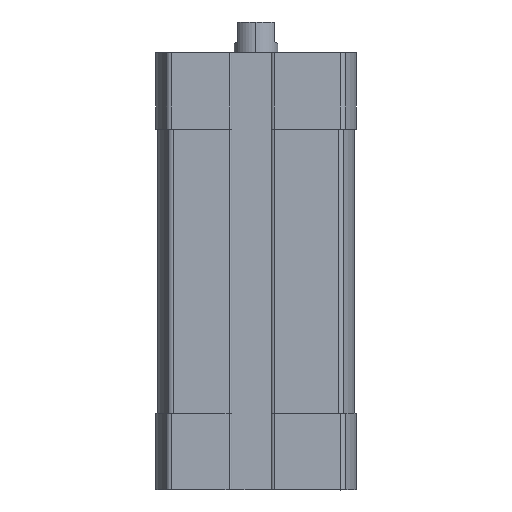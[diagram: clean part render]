
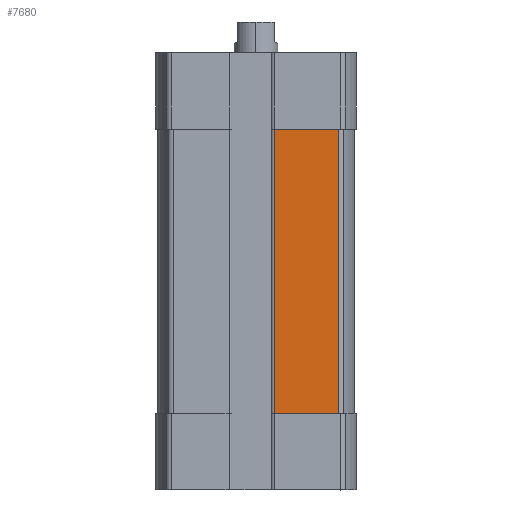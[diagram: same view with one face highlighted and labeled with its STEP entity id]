
A CAD part, left-side view. The second image highlights one B-rep face of the part: STEP entity #7680.
In plain terms, the highlighted planar face has unit normal (-1, 0, 0).
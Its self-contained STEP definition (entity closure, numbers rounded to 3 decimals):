
#5 = LINE ( 'NONE', #11311, #4496 ) ;
#146 = EDGE_CURVE ( 'NONE', #6102, #1639, #3737, .T. ) ;
#414 = CARTESIAN_POINT ( 'NONE',  ( -13.5, -2.5, -49.5 ) ) ;
#626 = DIRECTION ( 'NONE',  ( 0., 0., -1. ) ) ;
#1025 = CARTESIAN_POINT ( 'NONE',  ( -13.5, -2.5, -49.5 ) ) ;
#1095 = VECTOR ( 'NONE', #2494, 1000. ) ;
#1329 = DIRECTION ( 'NONE',  ( 0., -1., 0. ) ) ;
#1331 = ORIENTED_EDGE ( 'NONE', *, *, #2516, .T. ) ;
#1639 = VERTEX_POINT ( 'NONE', #9658 ) ;
#2174 = FACE_OUTER_BOUND ( 'NONE', #7755, .T. ) ;
#2494 = DIRECTION ( 'NONE',  ( 0., 1., 0. ) ) ;
#2516 = EDGE_CURVE ( 'NONE', #8425, #6102, #5, .T. ) ;
#3026 = DIRECTION ( 'NONE',  ( 0., 0., 1. ) ) ;
#3288 = CARTESIAN_POINT ( 'NONE',  ( -13.5, -2.5, -49.5 ) ) ;
#3737 = LINE ( 'NONE', #414, #8191 ) ;
#4170 = ORIENTED_EDGE ( 'NONE', *, *, #6714, .T. ) ;
#4208 = LINE ( 'NONE', #8366, #8969 ) ;
#4496 = VECTOR ( 'NONE', #626, 1000. ) ;
#4638 = AXIS2_PLACEMENT_3D ( 'NONE', #3288, #11342, #6023 ) ;
#4726 = EDGE_CURVE ( 'NONE', #9991, #8425, #8467, .T. ) ;
#6023 = DIRECTION ( 'NONE',  ( 0., 0., 1. ) ) ;
#6102 = VERTEX_POINT ( 'NONE', #1025 ) ;
#6714 = EDGE_CURVE ( 'NONE', #1639, #9991, #4208, .T. ) ;
#6960 = CARTESIAN_POINT ( 'NONE',  ( -13.5, 0., -10.5 ) ) ;
#7416 = CARTESIAN_POINT ( 'NONE',  ( -13.5, -11.329, -10.5 ) ) ;
#7680 = ADVANCED_FACE ( 'NONE', ( #2174 ), #8670, .T. ) ;
#7755 = EDGE_LOOP ( 'NONE', ( #11471, #4170, #11387, #1331 ) ) ;
#8191 = VECTOR ( 'NONE', #1329, 1000. ) ;
#8366 = CARTESIAN_POINT ( 'NONE',  ( -13.5, -11.329, -49.5 ) ) ;
#8425 = VERTEX_POINT ( 'NONE', #11199 ) ;
#8467 = LINE ( 'NONE', #6960, #1095 ) ;
#8670 = PLANE ( 'NONE',  #4638 ) ;
#8969 = VECTOR ( 'NONE', #3026, 1000. ) ;
#9658 = CARTESIAN_POINT ( 'NONE',  ( -13.5, -11.329, -49.5 ) ) ;
#9991 = VERTEX_POINT ( 'NONE', #7416 ) ;
#11199 = CARTESIAN_POINT ( 'NONE',  ( -13.5, -2.5, -10.5 ) ) ;
#11311 = CARTESIAN_POINT ( 'NONE',  ( -13.5, -2.5, -49.5 ) ) ;
#11342 = DIRECTION ( 'NONE',  ( -1., 0., 0. ) ) ;
#11387 = ORIENTED_EDGE ( 'NONE', *, *, #4726, .T. ) ;
#11471 = ORIENTED_EDGE ( 'NONE', *, *, #146, .T. ) ;
